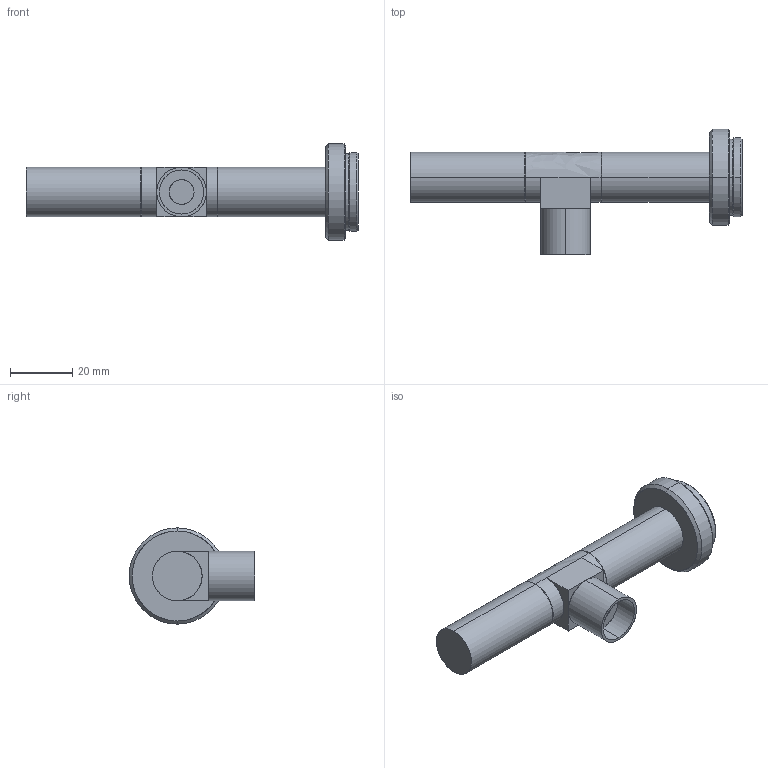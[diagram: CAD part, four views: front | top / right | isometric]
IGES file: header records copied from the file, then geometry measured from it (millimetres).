
Start section: SolidWorks IGES file using analytic representation for surfaces
Bounding box: 106.9 x 40.5 x 31 mm (x, y, z)
Surface area: 8820.8 mm2 (no closed solid volume)
Topology: 0 solids, 0 shells, 50 faces, 652 edges, 652 vertices
Faces by surface type: revolution 35, bspline 15
